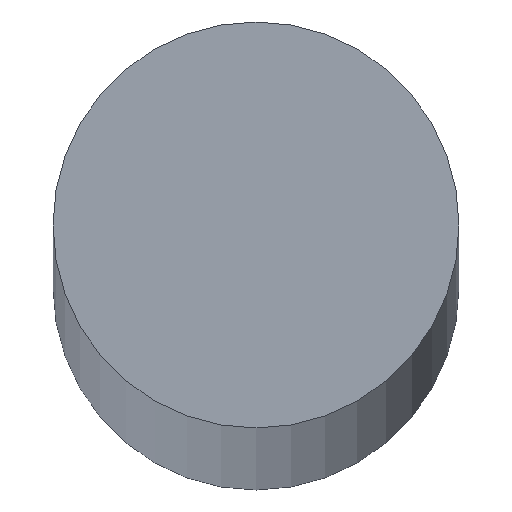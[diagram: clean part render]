
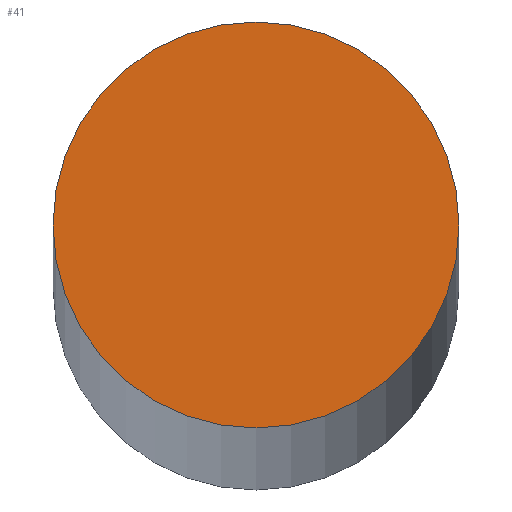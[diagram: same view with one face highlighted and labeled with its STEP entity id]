
A CAD part, top view. The second image highlights one B-rep face of the part: STEP entity #41.
In plain terms, the highlighted planar face has unit normal (0, 0, 1).
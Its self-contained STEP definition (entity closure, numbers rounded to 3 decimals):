
#16=PLANE('',#66);
#19=FACE_OUTER_BOUND('',#22,.T.);
#22=EDGE_LOOP('',(#37));
#25=CIRCLE('',#63,8.);
#27=VERTEX_POINT('',#82);
#29=EDGE_CURVE('',#27,#27,#25,.T.);
#37=ORIENTED_EDGE('',*,*,#29,.T.);
#41=ADVANCED_FACE('',(#19),#16,.T.);
#63=AXIS2_PLACEMENT_3D('',#83,#71,#72);
#66=AXIS2_PLACEMENT_3D('',#88,#78,#79);
#71=DIRECTION('center_axis',(0.,0.,1.));
#72=DIRECTION('ref_axis',(-1.,0.,0.));
#78=DIRECTION('center_axis',(0.,0.,1.));
#79=DIRECTION('ref_axis',(1.,0.,0.));
#82=CARTESIAN_POINT('',(8.,0.,1400.));
#83=CARTESIAN_POINT('Origin',(0.,0.,1400.));
#88=CARTESIAN_POINT('Origin',(0.,0.,
1400.));
